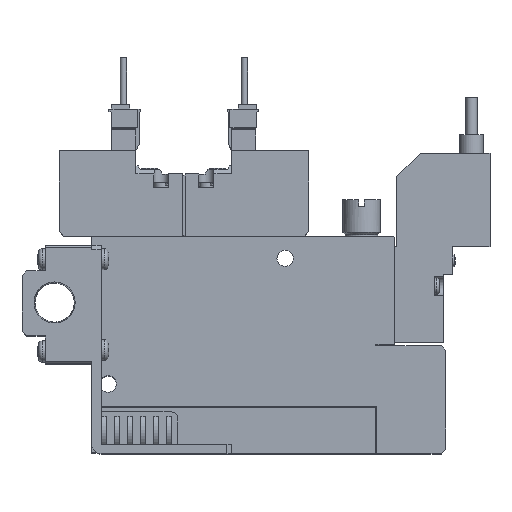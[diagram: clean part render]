
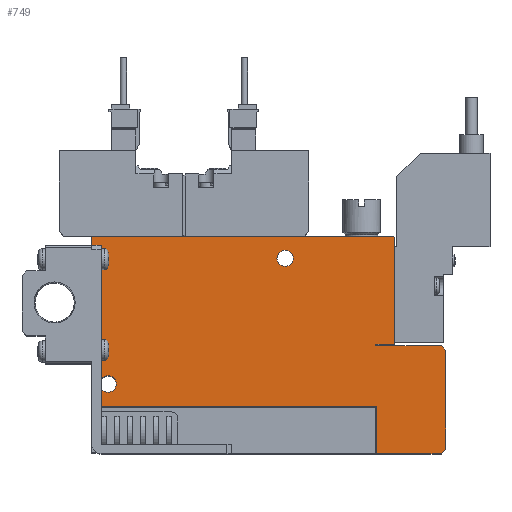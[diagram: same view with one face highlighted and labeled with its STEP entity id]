
A CAD part, top view. The second image highlights one B-rep face of the part: STEP entity #749.
In plain terms, the highlighted planar face has unit normal (0, 0, 1).
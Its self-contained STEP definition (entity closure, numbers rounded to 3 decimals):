
#749=ADVANCED_FACE('',(#1788,#1789,#1790),#1791,.F.);
#1788=FACE_OUTER_BOUND('',#3207,.T.);
#1789=FACE_BOUND('',#3208,.T.);
#1790=FACE_BOUND('',#3209,.T.);
#1791=PLANE('',#3210);
#3207=EDGE_LOOP('',(#6707,#6708,#6709,#6710,#6711,#6712,#6713,#6714,#6715,#6716,#6717,#6718,#6719,#6720));
#3208=EDGE_LOOP('',(#6721));
#3209=EDGE_LOOP('',(#6722));
#3210=AXIS2_PLACEMENT_3D('',#6723,#6724,#6725);
#6707=ORIENTED_EDGE('',*,*,#9922,.T.);
#6708=ORIENTED_EDGE('',*,*,#9864,.F.);
#6709=ORIENTED_EDGE('',*,*,#9901,.F.);
#6710=ORIENTED_EDGE('',*,*,#9923,.T.);
#6711=ORIENTED_EDGE('',*,*,#9924,.T.);
#6712=ORIENTED_EDGE('',*,*,#9925,.T.);
#6713=ORIENTED_EDGE('',*,*,#9926,.T.);
#6714=ORIENTED_EDGE('',*,*,#9927,.T.);
#6715=ORIENTED_EDGE('',*,*,#9928,.T.);
#6716=ORIENTED_EDGE('',*,*,#9929,.T.);
#6717=ORIENTED_EDGE('',*,*,#9930,.T.);
#6718=ORIENTED_EDGE('',*,*,#9931,.T.);
#6719=ORIENTED_EDGE('',*,*,#9932,.T.);
#6720=ORIENTED_EDGE('',*,*,#9774,.T.);
#6721=ORIENTED_EDGE('',*,*,#9933,.F.);
#6722=ORIENTED_EDGE('',*,*,#9934,.F.);
#6723=CARTESIAN_POINT('',(0.0,0.0,5.0));
#6724=DIRECTION('',(0.0,0.0,-1.0));
#6725=DIRECTION('',(0.0,-1.0,0.0));
#9774=EDGE_CURVE('',#11936,#11934,#11937,.T.);
#9864=EDGE_CURVE('',#12105,#12106,#12107,.T.);
#9901=EDGE_CURVE('',#12169,#12105,#12171,.T.);
#9922=EDGE_CURVE('',#11934,#12106,#12205,.T.);
#9923=EDGE_CURVE('',#12169,#12206,#12207,.T.);
#9924=EDGE_CURVE('',#12206,#12208,#12209,.T.);
#9925=EDGE_CURVE('',#12208,#12210,#12211,.T.);
#9926=EDGE_CURVE('',#12210,#12212,#12213,.T.);
#9927=EDGE_CURVE('',#12212,#12214,#12215,.T.);
#9928=EDGE_CURVE('',#12214,#12216,#12217,.T.);
#9929=EDGE_CURVE('',#12216,#12218,#12219,.T.);
#9930=EDGE_CURVE('',#12218,#12220,#12221,.T.);
#9931=EDGE_CURVE('',#12220,#12222,#12223,.T.);
#9932=EDGE_CURVE('',#12222,#11936,#12224,.T.);
#9933=EDGE_CURVE('',#12225,#12225,#12226,.T.);
#9934=EDGE_CURVE('',#12227,#12227,#12228,.T.);
#11934=VERTEX_POINT('',#15551);
#11936=VERTEX_POINT('',#15554);
#11937=LINE('',#15555,#15556);
#12105=VERTEX_POINT('',#15848);
#12106=VERTEX_POINT('',#15849);
#12107=LINE('',#15850,#15851);
#12169=VERTEX_POINT('',#15944);
#12171=LINE('',#15947,#15948);
#12205=LINE('',#16015,#16016);
#12206=VERTEX_POINT('',#16017);
#12207=LINE('',#16018,#16019);
#12208=VERTEX_POINT('',#16020);
#12209=LINE('',#16021,#16022);
#12210=VERTEX_POINT('',#16023);
#12211=LINE('',#16024,#16025);
#12212=VERTEX_POINT('',#16026);
#12213=LINE('',#16027,#16028);
#12214=VERTEX_POINT('',#16029);
#12215=LINE('',#16030,#16031);
#12216=VERTEX_POINT('',#16032);
#12217=LINE('',#16033,#16034);
#12218=VERTEX_POINT('',#16035);
#12219=LINE('',#16036,#16037);
#12220=VERTEX_POINT('',#16038);
#12221=LINE('',#16039,#16040);
#12222=VERTEX_POINT('',#16041);
#12223=LINE('',#16042,#16043);
#12224=LINE('',#16044,#16045);
#12225=VERTEX_POINT('',#16046);
#12226=CIRCLE('',#16047,1.75);
#12227=VERTEX_POINT('',#16048);
#12228=CIRCLE('',#16049,1.75);
#15551=CARTESIAN_POINT('',(0.0,46.4,5.0));
#15554=CARTESIAN_POINT('',(0.2,46.6,5.0));
#15555=CARTESIAN_POINT('',(0.2,46.6,5.0));
#15556=VECTOR('',#19167,1.0);
#15848=CARTESIAN_POINT('',(61.1,10.1,5.0));
#15849=CARTESIAN_POINT('',(0.0,10.1,5.0));
#15850=CARTESIAN_POINT('',(61.1,10.1,5.0));
#15851=VECTOR('',#19300,1.0);
#15944=CARTESIAN_POINT('',(61.1,0.0,5.0));
#15947=CARTESIAN_POINT('',(61.1,0.0,5.0));
#15948=VECTOR('',#19345,1.0);
#16015=CARTESIAN_POINT('',(0.0,46.4,5.0));
#16016=VECTOR('',#19372,1.0);
#16017=CARTESIAN_POINT('',(75.0,0.0,5.0));
#16018=CARTESIAN_POINT('',(0.0,0.0,5.0));
#16019=VECTOR('',#19373,1.0);
#16020=CARTESIAN_POINT('',(76.0,1.0,5.0));
#16021=CARTESIAN_POINT('',(75.0,0.0,5.0));
#16022=VECTOR('',#19374,1.0);
#16023=CARTESIAN_POINT('',(76.0,22.25,5.0));
#16024=CARTESIAN_POINT('',(76.0,1.0,5.0));
#16025=VECTOR('',#19375,1.0);
#16026=CARTESIAN_POINT('',(75.0,23.25,5.0));
#16027=CARTESIAN_POINT('',(76.0,22.25,5.0));
#16028=VECTOR('',#19376,1.0);
#16029=CARTESIAN_POINT('',(61.0,23.25,5.0));
#16030=CARTESIAN_POINT('',(75.0,23.25,5.0));
#16031=VECTOR('',#19377,1.0);
#16032=CARTESIAN_POINT('',(61.0,23.5,5.0));
#16033=CARTESIAN_POINT('',(61.0,23.25,5.0));
#16034=VECTOR('',#19378,1.0);
#16035=CARTESIAN_POINT('',(65.0,23.5,5.0));
#16036=CARTESIAN_POINT('',(61.0,23.5,5.0));
#16037=VECTOR('',#19379,1.0);
#16038=CARTESIAN_POINT('',(65.0,46.4,5.0));
#16039=CARTESIAN_POINT('',(65.0,23.5,5.0));
#16040=VECTOR('',#19380,1.0);
#16041=CARTESIAN_POINT('',(64.8,46.6,5.0));
#16042=CARTESIAN_POINT('',(65.0,46.4,5.0));
#16043=VECTOR('',#19381,1.0);
#16044=CARTESIAN_POINT('',(64.8,46.6,5.0));
#16045=VECTOR('',#19382,1.0);
#16046=CARTESIAN_POINT('',(5.25,15.0,5.0));
#16047=AXIS2_PLACEMENT_3D('',#19383,#19384,#19385);
#16048=CARTESIAN_POINT('',(43.25,42.0,5.0));
#16049=AXIS2_PLACEMENT_3D('',#19386,#19387,#19388);
#19167=DIRECTION('',(-0.707,-0.707,0.0));
#19300=DIRECTION('',(-1.0,0.0,0.0));
#19345=DIRECTION('',(0.0,1.0,0.0));
#19372=DIRECTION('',(0.0,-1.0,0.0));
#19373=DIRECTION('',(1.0,0.0,0.0));
#19374=DIRECTION('',(0.707,0.707,0.0));
#19375=DIRECTION('',(0.0,1.0,0.0));
#19376=DIRECTION('',(-0.707,0.707,0.0));
#19377=DIRECTION('',(-1.0,0.0,0.0));
#19378=DIRECTION('',(0.0,1.0,0.0));
#19379=DIRECTION('',(1.0,0.,0.0));
#19380=DIRECTION('',(0.0,1.0,0.0));
#19381=DIRECTION('',(-0.707,0.707,0.0));
#19382=DIRECTION('',(-1.0,0.0,0.0));
#19383=CARTESIAN_POINT('',(3.5,15.0,5.0));
#19384=DIRECTION('',(0.0,0.0,1.0));
#19385=DIRECTION('',(1.0,0.0,0.0));
#19386=CARTESIAN_POINT('',(41.5,42.0,5.0));
#19387=DIRECTION('',(0.0,0.0,1.0));
#19388=DIRECTION('',(1.0,0.0,0.0));
